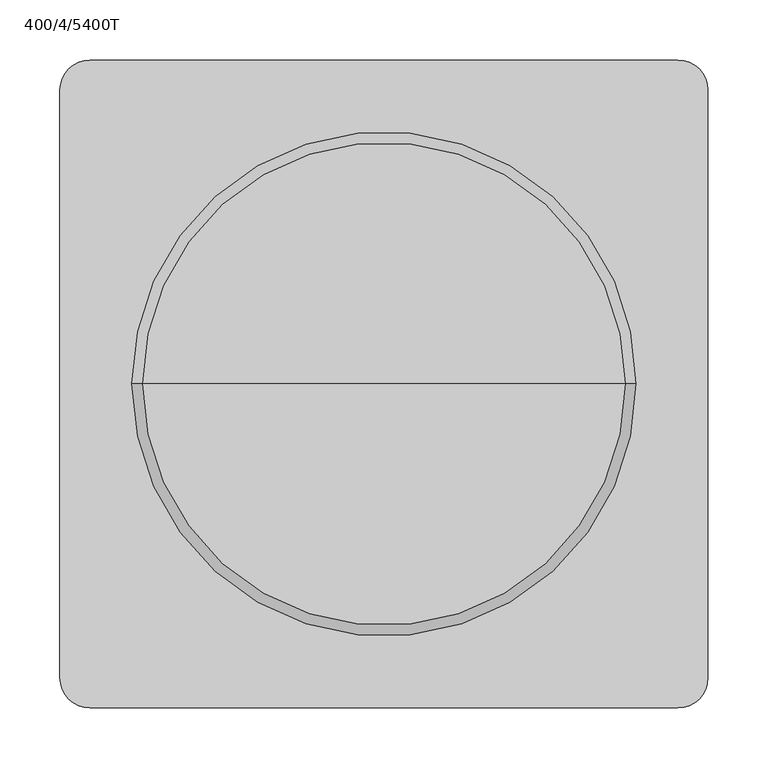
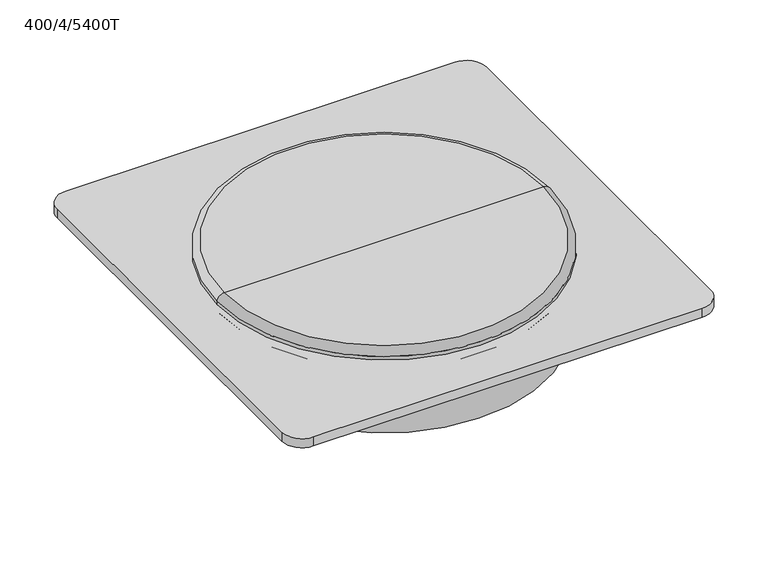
"""IFC4 building model written with IfcOpenShell, lengths in millimetres: unitary equipment geometry, VE-Wentylator-ParaForma-Harmann-WAF-Wywiewny : 400/4/5400T."""

from ifc_helpers import new_model, si_unit, point, frame, frame_2d, origin, origin_with_axes, origin_2d, place, context, project, spatial, polyline, circle_curve, ellipse_curve, trimmed, segment, composite_curve, outline, extrude, source, transform, mapped, element, save
from ifc_brep_helpers import plane_surface, cylinder_surface, revolved_surface, advanced_brep


def unitary_equipment_400_4_5400t_5ea060fb(model_context):
    return source(origin(), model_context, "Body", "SolidModel", [
        advanced_brep(
        [(210.0, 0.0, 12.0), (-210.0, 0.0, 12.0), (0.0, 0.0, 12.0), (210.0, 0.0, 16.3333333), (-210.0, 0.0, 16.3333333), (201.3333333, 0.0, 25.0), (-201.3333333, 0.0, 25.0), (0.0, 0.0, 25.0)],
        [
            (0, 1, circle_curve(frame((0.0, 0.0, 12.0), z_axis=(0.0, 0.0, -1.0), x_axis=(-1.0000000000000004, 0.0, 0.0)), 210.0)),
            (1, 2),
            (2, 0),
            (1, 0, circle_curve(frame((0.0, 0.0, 12.0), z_axis=(0.0, 0.0, -1.0), x_axis=(-1.0000000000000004, 0.0, 0.0)), 210.0)),
            (3, 4, circle_curve(frame((0.0, 0.0, 16.3333333), z_axis=(0.0, 0.0, -1.0), x_axis=(-1.0000000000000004, 0.0, 0.0)), 210.0)),
            (4, 1),
            (0, 3),
            (4, 3, circle_curve(frame((0.0, 0.0, 16.3333333), z_axis=(0.0, 0.0, -1.0), x_axis=(-1.0000000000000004, 0.0, 0.0)), 210.0)),
            (5, 6, circle_curve(frame((0.0, 0.0, 25.0), z_axis=(0.0, 0.0, -1.0), x_axis=(-1.0000000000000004, 0.0, 0.0)), 201.3333333)),
            (6, 4, circle_curve(frame((-201.3333333, 0.0, 16.3333333), z_axis=(0.0, -1.0000000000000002, 0.0), x_axis=(0.0, 0.0, -1.0000000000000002)), 8.6666667)),
            (3, 5, circle_curve(frame((201.3333333, 0.0, 16.3333333), z_axis=(0.0, -1.0000000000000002, 0.0), x_axis=(0.0, 0.0, -1.0000000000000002)), 8.6666667)),
            (6, 5, circle_curve(frame((0.0, 0.0, 25.0), z_axis=(0.0, 0.0, -1.0), x_axis=(-1.0000000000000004, 0.0, 0.0)), 201.3333333)),
            (7, 6),
            (5, 7),
        ],
        [
            plane_surface(frame((0.0, 0.0, 12.0), z_axis=(0.0, 0.0, -1.0), x_axis=(-1.0, 0.0, 0.0))),
            cylinder_surface(frame((0.0, 0.0, 25.0), z_axis=(0.0, 0.0, 1.0000000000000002), x_axis=(-1.0000000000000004, 0.0, 0.0)), 210.0),
            revolved_surface(trimmed(ellipse_curve(frame((-201.3333333, 0.0, 16.3333333), z_axis=(0.0, 1.0000000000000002, 0.0), x_axis=(0.0, 0.0, -1.0000000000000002)), 8.6666667, 8.6666667), [point((-210.0, 0.0, 16.3333333))], [point((-201.3333333, 0.0, 25.0))], True, "CARTESIAN"), (0.0, 0.0, 25.0), (0.0, 0.0, 1.0000000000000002)),
            plane_surface(frame((0.0, 0.0, 25.0), z_axis=(0.0, 0.0, 1.0), x_axis=(-1.0, 0.0, 0.0))),
        ],
        [
            (0, [[1, 2, 3]]),
            (0, [[4, -3, -2]]),
            (1, [[5, 6, -1, 7]]),
            (1, [[8, -7, -4, -6]]),
            (2, [[9, 10, -5, 11]]),
            (2, [[12, -11, -8, -10]]),
            (3, [[13, -9, 14]]),
            (3, [[-14, -12, -13]]),
        ],
    ),
        extrude(outline(composite_curve([segment(trimmed(circle_curve(origin_2d(), 63.0), [point((63.0, 0.0))], [point((-63.0, 0.0))], False, "CARTESIAN"), True, "CONTINUOUS"), segment(trimmed(circle_curve(origin_2d(), 63.0), [point((-63.0, 0.0))], [point((63.0, 0.0))], False, "CARTESIAN"), True, "CONTINUOUS")], self_intersect=False)), frame((0.0, 0.0, -106.0), z_axis=(0.0, 0.0, 1.0), x_axis=(1.0, 0.0, 0.0)), (0.0, 0.0, 1.0), 18.0),
        advanced_brep(
        [(0.0, 0.0, 0.0), (-210.0, 0.0, 0.0), (210.0, 0.0, 0.0), (206.0, 0.0, -88.0), (-206.0, 0.0, -88.0), (0.0, 0.0, -88.0), (206.0, 0.0, -4.0), (-206.0, 0.0, -4.0)],
        [
            (0, 1),
            (1, 2, circle_curve(frame((0.0, 0.0, 0.0), z_axis=(0.0, 0.0, 1.0), x_axis=(-1.0000000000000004, 0.0, 0.0)), 210.0)),
            (2, 0),
            (2, 1, circle_curve(frame((0.0, 0.0, 0.0), z_axis=(0.0, 0.0, 1.0), x_axis=(-1.0000000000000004, 0.0, 0.0)), 210.0)),
            (3, 4, circle_curve(frame((0.0, 0.0, -88.0), z_axis=(0.0, 0.0, -1.0), x_axis=(-1.0000000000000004, 0.0, 0.0)), 206.0)),
            (4, 5),
            (5, 3),
            (4, 3, circle_curve(frame((0.0, 0.0, -88.0), z_axis=(0.0, 0.0, -1.0), x_axis=(-1.0000000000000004, 0.0, 0.0)), 206.0)),
            (6, 7, circle_curve(frame((0.0, 0.0, -4.0), z_axis=(0.0, 0.0, -1.0), x_axis=(-1.0000000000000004, 0.0, 0.0)), 206.0)),
            (7, 4),
            (3, 6),
            (7, 6, circle_curve(frame((0.0, 0.0, -4.0), z_axis=(0.0, 0.0, -1.0), x_axis=(-1.0000000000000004, 0.0, 0.0)), 206.0)),
            (1, 7, circle_curve(frame((-210.0, 0.0, -4.0), z_axis=(0.0, 1.0000000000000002, 0.0), x_axis=(0.0, 0.0, -1.0000000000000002)), 4.0)),
            (6, 2, circle_curve(frame((210.0, 0.0, -4.0), z_axis=(0.0, 1.0000000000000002, 0.0), x_axis=(0.0, 0.0, -1.0000000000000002)), 4.0)),
        ],
        [
            plane_surface(frame((0.0, 0.0, 0.0), z_axis=(0.0, 0.0, 1.0), x_axis=(-1.0, 0.0, 0.0))),
            plane_surface(frame((0.0, 0.0, -88.0), z_axis=(0.0, 0.0, -1.0), x_axis=(-1.0, 0.0, 0.0))),
            cylinder_surface(frame((0.0, 0.0, 0.0), z_axis=(0.0, 0.0, 1.0000000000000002), x_axis=(-1.0000000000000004, 0.0, 0.0)), 206.0),
            revolved_surface(trimmed(ellipse_curve(frame((-210.0, 0.0, -4.0), z_axis=(0.0, -1.0000000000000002, 0.0), x_axis=(0.0, 0.0, -1.0000000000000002)), 4.0, 4.0), [point((-206.0, 0.0, -4.0))], [point((-210.0, 0.0, 0.0))], True, "CARTESIAN"), (0.0, 0.0, 0.0), (0.0, 0.0, 1.0000000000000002)),
        ],
        [
            (0, [[1, 2, 3]]),
            (0, [[-3, 4, -1]]),
            (1, [[5, 6, 7]]),
            (1, [[8, -7, -6]]),
            (2, [[9, 10, -5, 11]]),
            (2, [[12, -11, -8, -10]]),
            (3, [[-2, 13, -9, 14]]),
            (3, [[-4, -14, -12, -13]]),
        ],
    ),
        extrude(outline(composite_curve([segment(polyline([(245.0, -270.0), (-245.0, -270.0)]), True, "CONTINUOUS"), segment(trimmed(circle_curve(frame_2d((-245.0, -245.0)), 25.0), [point((-245.0, -270.0))], [point((-270.0, -245.0))], False, "CARTESIAN"), True, "CONTINUOUS"), segment(polyline([(-270.0, -245.0), (-270.0, 245.0)]), True, "CONTINUOUS"), segment(trimmed(circle_curve(frame_2d((-245.0, 245.0)), 25.0), [point((-270.0, 245.0))], [point((-245.0, 270.0))], False, "CARTESIAN"), True, "CONTINUOUS"), segment(polyline([(-245.0, 270.0), (245.0, 270.0)]), True, "CONTINUOUS"), segment(trimmed(circle_curve(frame_2d((245.0, 245.0)), 25.0), [point((245.0, 270.0))], [point((270.0, 245.0))], False, "CARTESIAN"), True, "CONTINUOUS"), segment(polyline([(270.0, 245.0), (270.0, -245.0)]), True, "CONTINUOUS"), segment(trimmed(circle_curve(frame_2d((245.0, -245.0)), 25.0), [point((270.0, -245.0))], [point((245.0, -270.0))], False, "CARTESIAN"), True, "CONTINUOUS")], self_intersect=False)), origin_with_axes(), (0.0, 0.0, 1.0), 12.0),
    ])


if __name__ == "__main__":
    model = new_model("IFC4")
    model_context = context("Model", 3, world=origin())
    ifc_project = project(units=[si_unit("LENGTHUNIT", "METRE", prefix="MILLI")], contexts=[model_context])
    site = spatial("IfcSite", under=ifc_project)
    building = spatial("IfcBuilding", under=site)
    placement = place(None, origin())
    unitary_equipment_400_4_5400t_shape = unitary_equipment_400_4_5400t_5ea060fb(model_context)
    element("IfcUnitaryEquipment", 1, ObjectType="VE-Wentylator-ParaForma-Harmann-WAF-Wywiewny : 400/4/5400T", at=placement, inside=building, context=model_context, shape_type="MappedRepresentation", body=[
        mapped(unitary_equipment_400_4_5400t_shape, transform((0.0, 0.0, 0.0), x_axis=(1.0, 0.0, 0.0), y_axis=(0.0, 1.0, 0.0), z_axis=(0.0, 0.0, 1.0))),
    ])
    save(model, "model.ifc")
